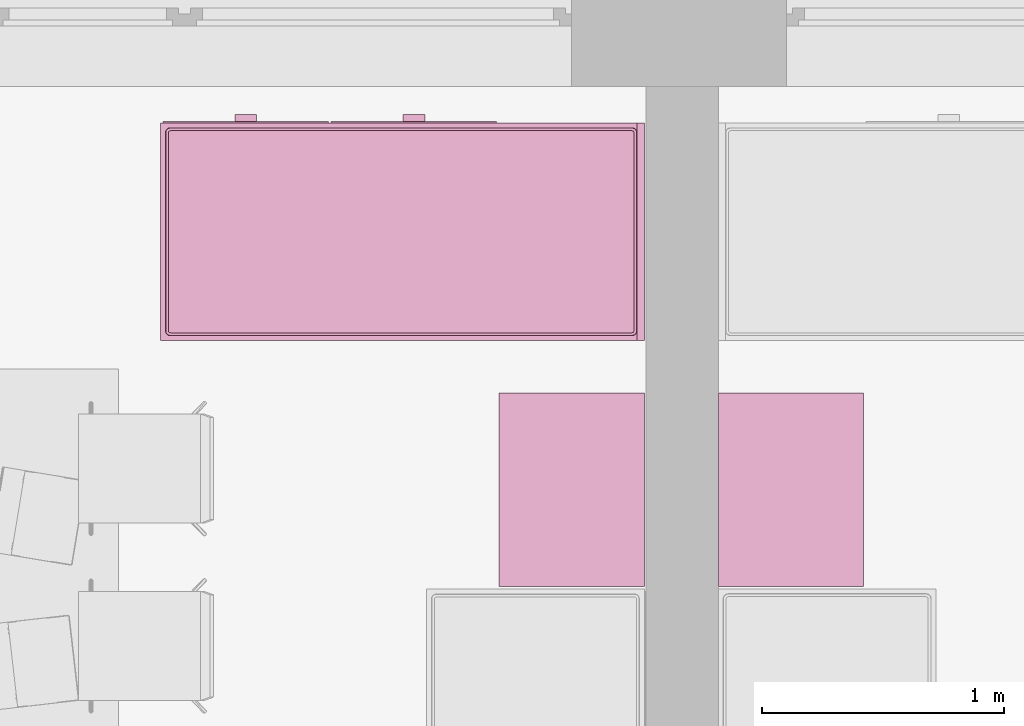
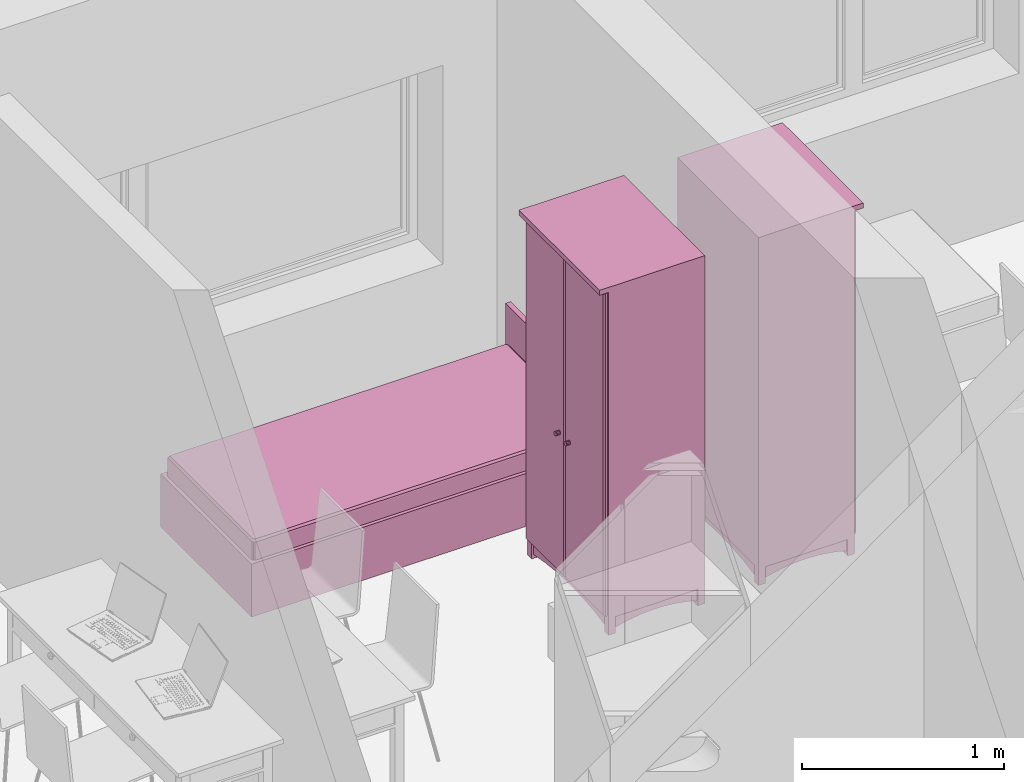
# One storey, part 91 of 165: 3 furnishings.
"""IFC2X3 building model written with IfcOpenShell, lengths in millimetres."""

from ifc_helpers import new_model, entity, si_unit, converted_unit, money_unit, direction, frame, origin_with_axes, place, context, subcontext, project, spatial, faceted_brep, source, transform, mapped, material, material_list, type_object, element, save


model = new_model("IFC2X3")

# Units and contexts
model_context = context("Model", 3, precision=1e-05, world=origin_with_axes(), true_north=direction((0.0, 1.0)))
body_context = subcontext(model_context, "Body", "Model", "MODEL_VIEW")
ifc_project = project(units=[si_unit("LENGTHUNIT", "METRE", prefix="MILLI"), si_unit("AREAUNIT", "SQUARE_METRE"), si_unit("VOLUMEUNIT", "CUBIC_METRE"), converted_unit("PLANEANGLEUNIT", "DEGREE", entity("IfcPlaneAngleMeasure", 0.0174532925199), si_unit("PLANEANGLEUNIT", "RADIAN"), dimensions=[0, 0, 0, 0, 0, 0, 0]), si_unit("SOLIDANGLEUNIT", "STERADIAN"), money_unit("USD"), converted_unit("TIMEUNIT", "Year", entity("IfcTimeMeasure", 31556926.0), si_unit("TIMEUNIT", "SECOND"), dimensions=[0, 0, 0, 0, 0, 0, 0]), si_unit("MASSUNIT", "GRAM"), si_unit("THERMODYNAMICTEMPERATUREUNIT", "DEGREE_CELSIUS"), si_unit("LUMINOUSINTENSITYUNIT", "LUMEN")], contexts=[model_context])

# Site, building, storey
site_placement = place(None, origin_with_axes())
site = spatial("IfcSite", under=ifc_project, at=site_placement, Name="Site", CompositionType="ELEMENT")
building_placement = place(site_placement, origin_with_axes())
building = spatial("IfcBuilding", under=site, at=building_placement, Name="Building", CompositionType="ELEMENT")
storey_placement = place(building_placement, frame((0.0, 0.0, 6300.0), z_axis=(0.0, 0.0, 1.0), x_axis=(1.0, 0.0, 0.0)))
storey = spatial("IfcBuildingStorey", under=building, at=storey_placement, Name="4KORRUS", CompositionType="ELEMENT", Elevation=6300.0)

# Furnishings
ifc_material = material(Name="Background")
ifc_material_list = material_list([ifc_material])
furnishing_element_type_1 = type_object("IfcFurnishingElementType", Name="Cupboard 19")
shared_shape_1 = source(origin_with_axes(), body_context, "Body", "Brep", [
    faceted_brep([(780.0, 600.0, 120.0), (780.0, 600.0, 2050.0), (780.0, 580.0, 2050.0), (780.0, 580.0, 120.0), (20.0, 600.0, 120.0), (20.0, 600.0, 2050.0), (20.0, 580.0, 2050.0), (20.0, 580.0, 120.0)], [[[0, 1, 2, 3]], [[4, 5, 1, 0]], [[1, 5, 6, 2]], [[3, 2, 6, 7]], [[0, 3, 7, 4]], [[7, 6, 5, 4]]]),
    faceted_brep([(0.0, 50.0, 100.0), (0.0, 600.0, 100.0), (20.0, 600.0, 100.0), (20.0, 50.0, 100.0), (0.0, 50.0, 2070.0), (0.0, 600.0, 2070.0), (20.0, 600.0, 2070.0), (20.0, 50.0, 2070.0)], [[[0, 1, 2, 3]], [[0, 4, 5, 1]], [[1, 5, 6, 2]], [[2, 6, 7, 3]], [[3, 7, 4, 0]], [[7, 6, 5, 4]]]),
    faceted_brep([(780.0, 50.0, 100.0), (780.0, 600.0, 100.0), (800.0, 600.0, 100.0), (800.0, 50.0, 100.0), (780.0, 50.0, 2070.0), (780.0, 600.0, 2070.0), (800.0, 600.0, 2070.0), (800.0, 50.0, 2070.0)], [[[0, 1, 2, 3]], [[0, 4, 5, 1]], [[1, 5, 6, 2]], [[2, 6, 7, 3]], [[3, 7, 4, 0]], [[7, 6, 5, 4]]]),
    faceted_brep([(20.0, 50.0, 100.0), (20.0, 600.0, 100.0), (780.0, 600.0, 100.0), (780.0, 50.0, 100.0), (20.0, 50.0, 120.0), (20.0, 600.0, 120.0), (780.0, 600.0, 120.0), (780.0, 50.0, 120.0)], [[[0, 1, 2, 3]], [[0, 4, 5, 1]], [[1, 5, 6, 2]], [[2, 6, 7, 3]], [[3, 7, 4, 0]], [[7, 6, 5, 4]]]),
    faceted_brep([(20.0, 50.0, 2050.0), (20.0, 600.0, 2050.0), (780.0, 600.0, 2050.0), (780.0, 50.0, 2050.0), (20.0, 50.0, 2070.0), (20.0, 600.0, 2070.0), (780.0, 600.0, 2070.0), (780.0, 50.0, 2070.0)], [[[0, 1, 2, 3]], [[0, 4, 5, 1]], [[1, 5, 6, 2]], [[2, 6, 7, 3]], [[3, 7, 4, 0]], [[7, 6, 5, 4]]]),
    faceted_brep([(0.0, 600.0, 2070.0), (0.0, 0.0, 2070.0), (0.0, 0.0, 2100.0), (0.0, 600.0, 2100.0), (800.0, 600.0, 2070.0), (800.0, 0.0, 2070.0), (800.0, 0.0, 2100.0), (800.0, 600.0, 2100.0)], [[[0, 1, 2, 3]], [[0, 4, 5, 1]], [[1, 5, 6, 2]], [[3, 2, 6, 7]], [[4, 0, 3, 7]], [[5, 4, 7, 6]]]),
    faceted_brep([(760.0, 590.0, 25.0), (760.0, 570.0, 25.0), (640.962, 570.0, 45.8), (640.962, 590.0, 45.8), (760.0, 590.0, 100.0), (760.0, 570.0, 100.0), (40.0, 570.0, 100.0), (40.0, 570.0, 25.0), (159.038, 570.0, 45.8), (279.23, 570.0, 58.32), (400.0, 570.0, 62.5), (520.77, 570.0, 58.32), (520.77, 590.0, 58.32), (400.0, 590.0, 62.5), (279.23, 590.0, 58.32), (159.038, 590.0, 45.8), (40.0, 590.0, 25.0), (40.0, 590.0, 100.0)], [[[0, 1, 2, 3]], [[4, 5, 1, 0]], [[1, 5, 6, 7, 8, 9, 10, 11, 2]], [[3, 2, 11, 12]], [[0, 3, 12, 13, 14, 15, 16, 17, 4]], [[17, 6, 5, 4]], [[16, 7, 6, 17]], [[15, 8, 7, 16]], [[14, 9, 8, 15]], [[13, 10, 9, 14]], [[12, 11, 10, 13]]]),
    faceted_brep([(760.0, 80.0, 25.0), (760.0, 60.0, 25.0), (640.962, 60.0, 45.8), (640.962, 80.0, 45.8), (760.0, 80.0, 100.0), (760.0, 60.0, 100.0), (40.0, 60.0, 100.0), (40.0, 60.0, 25.0), (159.038, 60.0, 45.8), (279.23, 60.0, 58.32), (400.0, 60.0, 62.5), (520.77, 60.0, 58.32), (520.77, 80.0, 58.32), (400.0, 80.0, 62.5), (279.23, 80.0, 58.32), (159.038, 80.0, 45.8), (40.0, 80.0, 25.0), (40.0, 80.0, 100.0)], [[[0, 1, 2, 3]], [[4, 5, 1, 0]], [[1, 5, 6, 7, 8, 9, 10, 11, 2]], [[3, 2, 11, 12]], [[0, 3, 12, 13, 14, 15, 16, 17, 4]], [[17, 6, 5, 4]], [[16, 7, 6, 17]], [[15, 8, 7, 16]], [[14, 9, 8, 15]], [[13, 10, 9, 14]], [[12, 11, 10, 13]]]),
    faceted_brep([(790.0, 90.0, 25.0), (770.0, 90.0, 25.0), (770.0, 141.266, 38.072), (790.0, 141.266, 38.072), (790.0, 90.0, 100.0), (770.0, 90.0, 100.0), (770.0, 560.0, 100.0), (770.0, 560.0, 25.0), (770.0, 508.734, 38.072), (770.0, 456.752, 47.92), (770.0, 404.257, 54.508), (770.0, 351.453, 57.808), (770.0, 298.547, 57.808), (770.0, 245.743, 54.508), (770.0, 193.248, 47.92), (790.0, 193.248, 47.92), (790.0, 245.743, 54.508), (790.0, 298.547, 57.808), (790.0, 351.453, 57.808), (790.0, 404.257, 54.508), (790.0, 456.752, 47.92), (790.0, 508.734, 38.072), (790.0, 560.0, 25.0), (790.0, 560.0, 100.0)], [[[0, 1, 2, 3]], [[4, 5, 1, 0]], [[1, 5, 6, 7, 8, 9, 10, 11, 12, 13, 14, 2]], [[3, 2, 14, 15]], [[0, 3, 15, 16, 17, 18, 19, 20, 21, 22, 23, 4]], [[23, 6, 5, 4]], [[22, 7, 6, 23]], [[21, 8, 7, 22]], [[20, 9, 8, 21]], [[19, 10, 9, 20]], [[18, 11, 10, 19]], [[17, 12, 11, 18]], [[16, 13, 12, 17]], [[15, 14, 13, 16]]]),
    faceted_brep([(30.0, 90.0, 25.0), (10.0, 90.0, 25.0), (10.0, 141.266, 38.072), (30.0, 141.266, 38.072), (30.0, 90.0, 100.0), (10.0, 90.0, 100.0), (10.0, 560.0, 100.0), (10.0, 560.0, 25.0), (10.0, 508.734, 38.072), (10.0, 456.752, 47.92), (10.0, 404.257, 54.508), (10.0, 351.453, 57.808), (10.0, 298.547, 57.808), (10.0, 245.743, 54.508), (10.0, 193.248, 47.92), (30.0, 193.248, 47.92), (30.0, 245.743, 54.508), (30.0, 298.547, 57.808), (30.0, 351.453, 57.808), (30.0, 404.257, 54.508), (30.0, 456.752, 47.92), (30.0, 508.734, 38.072), (30.0, 560.0, 25.0), (30.0, 560.0, 100.0)], [[[0, 1, 2, 3]], [[4, 5, 1, 0]], [[1, 5, 6, 7, 8, 9, 10, 11, 12, 13, 14, 2]], [[3, 2, 14, 15]], [[0, 3, 15, 16, 17, 18, 19, 20, 21, 22, 23, 4]], [[23, 6, 5, 4]], [[22, 7, 6, 23]], [[21, 8, 7, 22]], [[20, 9, 8, 21]], [[19, 10, 9, 20]], [[18, 11, 10, 19]], [[17, 12, 11, 18]], [[16, 13, 12, 17]], [[15, 14, 13, 16]]]),
    faceted_brep([(760.0, 560.0, 0.0), (760.0, 560.0, 100.0), (760.0, 600.0, 100.0), (760.0, 600.0, 0.0), (800.0, 560.0, 0.0), (800.0, 560.0, 100.0), (800.0, 600.0, 100.0), (800.0, 600.0, 0.0)], [[[0, 1, 2, 3]], [[4, 5, 1, 0]], [[1, 5, 6, 2]], [[3, 2, 6, 7]], [[0, 3, 7, 4]], [[7, 6, 5, 4]]]),
    faceted_brep([(0.0, 560.0, 0.0), (0.0, 560.0, 100.0), (0.0, 600.0, 100.0), (0.0, 600.0, 0.0), (40.0, 560.0, 0.0), (40.0, 560.0, 100.0), (40.0, 600.0, 100.0), (40.0, 600.0, 0.0)], [[[0, 1, 2, 3]], [[4, 5, 1, 0]], [[1, 5, 6, 2]], [[3, 2, 6, 7]], [[0, 3, 7, 4]], [[7, 6, 5, 4]]]),
    faceted_brep([(760.0, 50.0, 0.0), (760.0, 50.0, 100.0), (760.0, 90.0, 100.0), (760.0, 90.0, 0.0), (800.0, 50.0, 0.0), (800.0, 50.0, 100.0), (800.0, 90.0, 100.0), (800.0, 90.0, 0.0)], [[[0, 1, 2, 3]], [[4, 5, 1, 0]], [[1, 5, 6, 2]], [[3, 2, 6, 7]], [[0, 3, 7, 4]], [[7, 6, 5, 4]]]),
    faceted_brep([(0.0, 50.0, 0.0), (0.0, 50.0, 100.0), (0.0, 90.0, 100.0), (0.0, 90.0, 0.0), (40.0, 50.0, 0.0), (40.0, 50.0, 100.0), (40.0, 90.0, 100.0), (40.0, 90.0, 0.0)], [[[0, 1, 2, 3]], [[4, 5, 1, 0]], [[1, 5, 6, 2]], [[3, 2, 6, 7]], [[0, 3, 7, 4]], [[7, 6, 5, 4]]]),
    faceted_brep([(780.0, 580.0, 587.5), (780.0, 580.0, 607.5), (780.0, 50.0, 607.5), (780.0, 50.0, 587.5), (20.0, 580.0, 587.5), (20.0, 580.0, 607.5), (20.0, 50.0, 607.5), (20.0, 50.0, 587.5)], [[[0, 1, 2, 3]], [[4, 5, 1, 0]], [[1, 5, 6, 2]], [[3, 2, 6, 7]], [[0, 3, 7, 4]], [[7, 6, 5, 4]]]),
    faceted_brep([(780.0, 580.0, 1075.0), (780.0, 580.0, 1095.0), (780.0, 50.0, 1095.0), (780.0, 50.0, 1075.0), (20.0, 580.0, 1075.0), (20.0, 580.0, 1095.0), (20.0, 50.0, 1095.0), (20.0, 50.0, 1075.0)], [[[0, 1, 2, 3]], [[4, 5, 1, 0]], [[1, 5, 6, 2]], [[3, 2, 6, 7]], [[0, 3, 7, 4]], [[7, 6, 5, 4]]]),
    faceted_brep([(780.0, 580.0, 1562.5), (780.0, 580.0, 1582.5), (780.0, 50.0, 1582.5), (780.0, 50.0, 1562.5), (20.0, 580.0, 1562.5), (20.0, 580.0, 1582.5), (20.0, 50.0, 1582.5), (20.0, 50.0, 1562.5)], [[[0, 1, 2, 3]], [[4, 5, 1, 0]], [[1, 5, 6, 2]], [[3, 2, 6, 7]], [[0, 3, 7, 4]], [[7, 6, 5, 4]]]),
    faceted_brep([(789.5, 50.0, 110.5), (400.5, 50.0, 110.5), (400.5, 50.0, 2059.5), (789.5, 50.0, 2059.5), (789.5, 40.0, 110.5), (400.5, 40.0, 110.5), (400.5, 40.0, 2059.5), (789.5, 40.0, 2059.5), (779.5, 30.0, 120.5), (410.5, 30.0, 120.5), (410.5, 30.0, 2049.5), (779.5, 30.0, 2049.5)], [[[0, 1, 2, 3]], [[0, 4, 5, 1]], [[1, 5, 6, 2]], [[2, 6, 7, 3]], [[3, 7, 4, 0]], [[4, 8, 9, 5]], [[5, 9, 10, 6]], [[6, 10, 11, 7]], [[7, 11, 8, 4]], [[10, 9, 8, 11]]]),
    faceted_brep([(399.5, 50.0, 110.5), (10.5, 50.0, 110.5), (10.5, 50.0, 2059.5), (399.5, 50.0, 2059.5), (399.5, 40.0, 110.5), (10.5, 40.0, 110.5), (10.5, 40.0, 2059.5), (399.5, 40.0, 2059.5), (389.5, 30.0, 120.5), (20.5, 30.0, 120.5), (20.5, 30.0, 2049.5), (389.5, 30.0, 2049.5)], [[[0, 1, 2, 3]], [[0, 4, 5, 1]], [[1, 5, 6, 2]], [[2, 6, 7, 3]], [[3, 7, 4, 0]], [[4, 8, 9, 5]], [[5, 9, 10, 6]], [[6, 10, 11, 7]], [[7, 11, 8, 4]], [[10, 9, 8, 11]]]),
    faceted_brep([(339.608, 30.0, 954.0), (338.0, 30.0, 960.0), (339.608, 30.0, 966.0), (344.0, 30.0, 970.392), (350.0, 30.0, 972.0), (356.0, 30.0, 970.392), (360.392, 30.0, 966.0), (362.0, 30.0, 960.0), (360.392, 30.0, 954.0), (356.0, 30.0, 949.608), (350.0, 30.0, 948.0), (344.0, 30.0, 949.608), (339.608, 5.0, 954.0), (338.0, 5.0, 960.0), (339.608, 5.0, 966.0), (344.0, 5.0, 970.392), (350.0, 5.0, 972.0), (356.0, 5.0, 970.392), (360.392, 5.0, 966.0), (362.0, 5.0, 960.0), (360.392, 5.0, 954.0), (356.0, 5.0, 949.608), (350.0, 5.0, 948.0), (344.0, 5.0, 949.608)], [[[0, 1, 2, 3, 4, 5, 6, 7, 8, 9, 10, 11]], [[0, 12, 13, 1]], [[1, 13, 14, 2]], [[2, 14, 15, 3]], [[3, 15, 16, 4]], [[4, 16, 17, 5]], [[5, 17, 18, 6]], [[6, 18, 19, 7]], [[7, 19, 20, 8]], [[8, 20, 21, 9]], [[9, 21, 22, 10]], [[10, 22, 23, 11]], [[11, 23, 12, 0]], [[12, 23, 22, 21, 20, 19, 18, 17, 16, 15, 14, 13]]]),
    faceted_brep([(460.392, 30.0, 954.0), (456.0, 30.0, 949.608), (450.0, 30.0, 948.0), (444.0, 30.0, 949.608), (439.608, 30.0, 954.0), (438.0, 30.0, 960.0), (439.608, 30.0, 966.0), (444.0, 30.0, 970.392), (450.0, 30.0, 972.0), (456.0, 30.0, 970.392), (460.392, 30.0, 966.0), (462.0, 30.0, 960.0), (460.392, 5.0, 954.0), (456.0, 5.0, 949.608), (450.0, 5.0, 948.0), (444.0, 5.0, 949.608), (439.608, 5.0, 954.0), (438.0, 5.0, 960.0), (439.608, 5.0, 966.0), (444.0, 5.0, 970.392), (450.0, 5.0, 972.0), (456.0, 5.0, 970.392), (460.392, 5.0, 966.0), (462.0, 5.0, 960.0)], [[[0, 1, 2, 3, 4, 5, 6, 7, 8, 9, 10, 11]], [[1, 0, 12, 13]], [[2, 1, 13, 14]], [[3, 2, 14, 15]], [[4, 3, 15, 16]], [[5, 4, 16, 17]], [[6, 5, 17, 18]], [[7, 6, 18, 19]], [[8, 7, 19, 20]], [[9, 8, 20, 21]], [[10, 9, 21, 22]], [[11, 10, 22, 23]], [[0, 11, 23, 12]], [[12, 23, 22, 21, 20, 19, 18, 17, 16, 15, 14, 13]]]),
])
furnishing_1_placement = place(storey_placement, frame((-35390.2967033, -7206.41563755, 0.0), z_axis=(0.0, 0.0, 1.0), x_axis=(0.0, 1.0, 0.0)))
element("IfcFurnishingElement", 1, at=furnishing_1_placement, inside=storey, type_object=furnishing_element_type_1, material=ifc_material_list, Name="FU - 014", context=body_context, shape_type="MappedRepresentation", body=[
    mapped(shared_shape_1, transform((0.0, 0.0, 0.0))),
])
shared_shape_2 = source(origin_with_axes(), body_context, "Body", "Brep", [
    faceted_brep([(-780.0, 600.0, 120.0), (-780.0, 580.0, 120.0), (-780.0, 580.0, 2050.0), (-780.0, 600.0, 2050.0), (-20.0, 600.0, 120.0), (-20.0, 580.0, 120.0), (-20.0, 580.0, 2050.0), (-20.0, 600.0, 2050.0)], [[[0, 1, 2, 3]], [[0, 4, 5, 1]], [[1, 5, 6, 2]], [[3, 2, 6, 7]], [[4, 0, 3, 7]], [[5, 4, 7, 6]]]),
    faceted_brep([(0.0, 50.0, 100.0), (-20.0, 50.0, 100.0), (-20.0, 600.0, 100.0), (0.0, 600.0, 100.0), (0.0, 50.0, 2070.0), (-20.0, 50.0, 2070.0), (-20.0, 600.0, 2070.0), (0.0, 600.0, 2070.0)], [[[0, 1, 2, 3]], [[1, 0, 4, 5]], [[2, 1, 5, 6]], [[3, 2, 6, 7]], [[0, 3, 7, 4]], [[5, 4, 7, 6]]]),
    faceted_brep([(-780.0, 50.0, 100.0), (-800.0, 50.0, 100.0), (-800.0, 600.0, 100.0), (-780.0, 600.0, 100.0), (-780.0, 50.0, 2070.0), (-800.0, 50.0, 2070.0), (-800.0, 600.0, 2070.0), (-780.0, 600.0, 2070.0)], [[[0, 1, 2, 3]], [[1, 0, 4, 5]], [[2, 1, 5, 6]], [[3, 2, 6, 7]], [[0, 3, 7, 4]], [[5, 4, 7, 6]]]),
    faceted_brep([(-20.0, 50.0, 100.0), (-780.0, 50.0, 100.0), (-780.0, 600.0, 100.0), (-20.0, 600.0, 100.0), (-20.0, 50.0, 120.0), (-780.0, 50.0, 120.0), (-780.0, 600.0, 120.0), (-20.0, 600.0, 120.0)], [[[0, 1, 2, 3]], [[1, 0, 4, 5]], [[2, 1, 5, 6]], [[3, 2, 6, 7]], [[0, 3, 7, 4]], [[5, 4, 7, 6]]]),
    faceted_brep([(-20.0, 50.0, 2050.0), (-780.0, 50.0, 2050.0), (-780.0, 600.0, 2050.0), (-20.0, 600.0, 2050.0), (-20.0, 50.0, 2070.0), (-780.0, 50.0, 2070.0), (-780.0, 600.0, 2070.0), (-20.0, 600.0, 2070.0)], [[[0, 1, 2, 3]], [[1, 0, 4, 5]], [[2, 1, 5, 6]], [[3, 2, 6, 7]], [[0, 3, 7, 4]], [[5, 4, 7, 6]]]),
    faceted_brep([(0.0, 600.0, 2070.0), (0.0, 600.0, 2100.0), (0.0, 0.0, 2100.0), (0.0, 0.0, 2070.0), (-800.0, 600.0, 2070.0), (-800.0, 600.0, 2100.0), (-800.0, 0.0, 2100.0), (-800.0, 0.0, 2070.0)], [[[0, 1, 2, 3]], [[4, 5, 1, 0]], [[1, 5, 6, 2]], [[3, 2, 6, 7]], [[0, 3, 7, 4]], [[7, 6, 5, 4]]]),
    faceted_brep([(-760.0, 590.0, 25.0), (-640.962, 590.0, 45.8), (-640.962, 570.0, 45.8), (-760.0, 570.0, 25.0), (-760.0, 590.0, 100.0), (-40.0, 590.0, 100.0), (-40.0, 590.0, 25.0), (-159.038, 590.0, 45.8), (-279.23, 590.0, 58.32), (-400.0, 590.0, 62.5), (-520.77, 590.0, 58.32), (-520.77, 570.0, 58.32), (-400.0, 570.0, 62.5), (-279.23, 570.0, 58.32), (-159.038, 570.0, 45.8), (-40.0, 570.0, 25.0), (-40.0, 570.0, 100.0), (-760.0, 570.0, 100.0)], [[[0, 1, 2, 3]], [[0, 4, 5, 6, 7, 8, 9, 10, 1]], [[1, 10, 11, 2]], [[3, 2, 11, 12, 13, 14, 15, 16, 17]], [[4, 0, 3, 17]], [[5, 4, 17, 16]], [[6, 5, 16, 15]], [[7, 6, 15, 14]], [[8, 7, 14, 13]], [[9, 8, 13, 12]], [[10, 9, 12, 11]]]),
    faceted_brep([(-760.0, 80.0, 25.0), (-640.962, 80.0, 45.8), (-640.962, 60.0, 45.8), (-760.0, 60.0, 25.0), (-760.0, 80.0, 100.0), (-40.0, 80.0, 100.0), (-40.0, 80.0, 25.0), (-159.038, 80.0, 45.8), (-279.23, 80.0, 58.32), (-400.0, 80.0, 62.5), (-520.77, 80.0, 58.32), (-520.77, 60.0, 58.32), (-400.0, 60.0, 62.5), (-279.23, 60.0, 58.32), (-159.038, 60.0, 45.8), (-40.0, 60.0, 25.0), (-40.0, 60.0, 100.0), (-760.0, 60.0, 100.0)], [[[0, 1, 2, 3]], [[0, 4, 5, 6, 7, 8, 9, 10, 1]], [[1, 10, 11, 2]], [[3, 2, 11, 12, 13, 14, 15, 16, 17]], [[4, 0, 3, 17]], [[5, 4, 17, 16]], [[6, 5, 16, 15]], [[7, 6, 15, 14]], [[8, 7, 14, 13]], [[9, 8, 13, 12]], [[10, 9, 12, 11]]]),
    faceted_brep([(-790.0, 90.0, 25.0), (-790.0, 141.266, 38.072), (-770.0, 141.266, 38.072), (-770.0, 90.0, 25.0), (-790.0, 90.0, 100.0), (-790.0, 560.0, 100.0), (-790.0, 560.0, 25.0), (-790.0, 508.734, 38.072), (-790.0, 456.752, 47.92), (-790.0, 404.257, 54.508), (-790.0, 351.453, 57.808), (-790.0, 298.547, 57.808), (-790.0, 245.743, 54.508), (-790.0, 193.248, 47.92), (-770.0, 193.248, 47.92), (-770.0, 245.743, 54.508), (-770.0, 298.547, 57.808), (-770.0, 351.453, 57.808), (-770.0, 404.257, 54.508), (-770.0, 456.752, 47.92), (-770.0, 508.734, 38.072), (-770.0, 560.0, 25.0), (-770.0, 560.0, 100.0), (-770.0, 90.0, 100.0)], [[[0, 1, 2, 3]], [[0, 4, 5, 6, 7, 8, 9, 10, 11, 12, 13, 1]], [[1, 13, 14, 2]], [[3, 2, 14, 15, 16, 17, 18, 19, 20, 21, 22, 23]], [[4, 0, 3, 23]], [[5, 4, 23, 22]], [[6, 5, 22, 21]], [[7, 6, 21, 20]], [[8, 7, 20, 19]], [[9, 8, 19, 18]], [[10, 9, 18, 17]], [[11, 10, 17, 16]], [[12, 11, 16, 15]], [[13, 12, 15, 14]]]),
    faceted_brep([(-30.0, 90.0, 25.0), (-30.0, 141.266, 38.072), (-10.0, 141.266, 38.072), (-10.0, 90.0, 25.0), (-30.0, 90.0, 100.0), (-30.0, 560.0, 100.0), (-30.0, 560.0, 25.0), (-30.0, 508.734, 38.072), (-30.0, 456.752, 47.92), (-30.0, 404.257, 54.508), (-30.0, 351.453, 57.808), (-30.0, 298.547, 57.808), (-30.0, 245.743, 54.508), (-30.0, 193.248, 47.92), (-10.0, 193.248, 47.92), (-10.0, 245.743, 54.508), (-10.0, 298.547, 57.808), (-10.0, 351.453, 57.808), (-10.0, 404.257, 54.508), (-10.0, 456.752, 47.92), (-10.0, 508.734, 38.072), (-10.0, 560.0, 25.0), (-10.0, 560.0, 100.0), (-10.0, 90.0, 100.0)], [[[0, 1, 2, 3]], [[0, 4, 5, 6, 7, 8, 9, 10, 11, 12, 13, 1]], [[1, 13, 14, 2]], [[3, 2, 14, 15, 16, 17, 18, 19, 20, 21, 22, 23]], [[4, 0, 3, 23]], [[5, 4, 23, 22]], [[6, 5, 22, 21]], [[7, 6, 21, 20]], [[8, 7, 20, 19]], [[9, 8, 19, 18]], [[10, 9, 18, 17]], [[11, 10, 17, 16]], [[12, 11, 16, 15]], [[13, 12, 15, 14]]]),
    faceted_brep([(-760.0, 560.0, 0.0), (-760.0, 600.0, 0.0), (-760.0, 600.0, 100.0), (-760.0, 560.0, 100.0), (-800.0, 560.0, 0.0), (-800.0, 600.0, 0.0), (-800.0, 600.0, 100.0), (-800.0, 560.0, 100.0)], [[[0, 1, 2, 3]], [[0, 4, 5, 1]], [[1, 5, 6, 2]], [[3, 2, 6, 7]], [[4, 0, 3, 7]], [[5, 4, 7, 6]]]),
    faceted_brep([(0.0, 560.0, 0.0), (0.0, 600.0, 0.0), (0.0, 600.0, 100.0), (0.0, 560.0, 100.0), (-40.0, 560.0, 0.0), (-40.0, 600.0, 0.0), (-40.0, 600.0, 100.0), (-40.0, 560.0, 100.0)], [[[0, 1, 2, 3]], [[0, 4, 5, 1]], [[1, 5, 6, 2]], [[3, 2, 6, 7]], [[4, 0, 3, 7]], [[5, 4, 7, 6]]]),
    faceted_brep([(-760.0, 50.0, 0.0), (-760.0, 90.0, 0.0), (-760.0, 90.0, 100.0), (-760.0, 50.0, 100.0), (-800.0, 50.0, 0.0), (-800.0, 90.0, 0.0), (-800.0, 90.0, 100.0), (-800.0, 50.0, 100.0)], [[[0, 1, 2, 3]], [[0, 4, 5, 1]], [[1, 5, 6, 2]], [[3, 2, 6, 7]], [[4, 0, 3, 7]], [[5, 4, 7, 6]]]),
    faceted_brep([(0.0, 50.0, 0.0), (0.0, 90.0, 0.0), (0.0, 90.0, 100.0), (0.0, 50.0, 100.0), (-40.0, 50.0, 0.0), (-40.0, 90.0, 0.0), (-40.0, 90.0, 100.0), (-40.0, 50.0, 100.0)], [[[0, 1, 2, 3]], [[0, 4, 5, 1]], [[1, 5, 6, 2]], [[3, 2, 6, 7]], [[4, 0, 3, 7]], [[5, 4, 7, 6]]]),
    faceted_brep([(-780.0, 580.0, 587.5), (-780.0, 50.0, 587.5), (-780.0, 50.0, 607.5), (-780.0, 580.0, 607.5), (-20.0, 580.0, 587.5), (-20.0, 50.0, 587.5), (-20.0, 50.0, 607.5), (-20.0, 580.0, 607.5)], [[[0, 1, 2, 3]], [[0, 4, 5, 1]], [[1, 5, 6, 2]], [[3, 2, 6, 7]], [[4, 0, 3, 7]], [[5, 4, 7, 6]]]),
    faceted_brep([(-780.0, 580.0, 1075.0), (-780.0, 50.0, 1075.0), (-780.0, 50.0, 1095.0), (-780.0, 580.0, 1095.0), (-20.0, 580.0, 1075.0), (-20.0, 50.0, 1075.0), (-20.0, 50.0, 1095.0), (-20.0, 580.0, 1095.0)], [[[0, 1, 2, 3]], [[0, 4, 5, 1]], [[1, 5, 6, 2]], [[3, 2, 6, 7]], [[4, 0, 3, 7]], [[5, 4, 7, 6]]]),
    faceted_brep([(-780.0, 580.0, 1562.5), (-780.0, 50.0, 1562.5), (-780.0, 50.0, 1582.5), (-780.0, 580.0, 1582.5), (-20.0, 580.0, 1562.5), (-20.0, 50.0, 1562.5), (-20.0, 50.0, 1582.5), (-20.0, 580.0, 1582.5)], [[[0, 1, 2, 3]], [[0, 4, 5, 1]], [[1, 5, 6, 2]], [[3, 2, 6, 7]], [[4, 0, 3, 7]], [[5, 4, 7, 6]]]),
    faceted_brep([(-789.5, 50.0, 110.5), (-789.5, 50.0, 2059.5), (-400.5, 50.0, 2059.5), (-400.5, 50.0, 110.5), (-789.5, 40.0, 110.5), (-789.5, 40.0, 2059.5), (-400.5, 40.0, 2059.5), (-400.5, 40.0, 110.5), (-779.5, 30.0, 120.5), (-779.5, 30.0, 2049.5), (-410.5, 30.0, 2049.5), (-410.5, 30.0, 120.5)], [[[0, 1, 2, 3]], [[1, 0, 4, 5]], [[2, 1, 5, 6]], [[3, 2, 6, 7]], [[0, 3, 7, 4]], [[5, 4, 8, 9]], [[6, 5, 9, 10]], [[7, 6, 10, 11]], [[4, 7, 11, 8]], [[10, 9, 8, 11]]]),
    faceted_brep([(-399.5, 50.0, 110.5), (-399.5, 50.0, 2059.5), (-10.5, 50.0, 2059.5), (-10.5, 50.0, 110.5), (-399.5, 40.0, 110.5), (-399.5, 40.0, 2059.5), (-10.5, 40.0, 2059.5), (-10.5, 40.0, 110.5), (-389.5, 30.0, 120.5), (-389.5, 30.0, 2049.5), (-20.5, 30.0, 2049.5), (-20.5, 30.0, 120.5)], [[[0, 1, 2, 3]], [[1, 0, 4, 5]], [[2, 1, 5, 6]], [[3, 2, 6, 7]], [[0, 3, 7, 4]], [[5, 4, 8, 9]], [[6, 5, 9, 10]], [[7, 6, 10, 11]], [[4, 7, 11, 8]], [[10, 9, 8, 11]]]),
    faceted_brep([(-339.608, 30.0, 954.0), (-344.0, 30.0, 949.608), (-350.0, 30.0, 948.0), (-356.0, 30.0, 949.608), (-360.392, 30.0, 954.0), (-362.0, 30.0, 960.0), (-360.392, 30.0, 966.0), (-356.0, 30.0, 970.392), (-350.0, 30.0, 972.0), (-344.0, 30.0, 970.392), (-339.608, 30.0, 966.0), (-338.0, 30.0, 960.0), (-339.608, 5.0, 954.0), (-344.0, 5.0, 949.608), (-350.0, 5.0, 948.0), (-356.0, 5.0, 949.608), (-360.392, 5.0, 954.0), (-362.0, 5.0, 960.0), (-360.392, 5.0, 966.0), (-356.0, 5.0, 970.392), (-350.0, 5.0, 972.0), (-344.0, 5.0, 970.392), (-339.608, 5.0, 966.0), (-338.0, 5.0, 960.0)], [[[0, 1, 2, 3, 4, 5, 6, 7, 8, 9, 10, 11]], [[1, 0, 12, 13]], [[2, 1, 13, 14]], [[3, 2, 14, 15]], [[4, 3, 15, 16]], [[5, 4, 16, 17]], [[6, 5, 17, 18]], [[7, 6, 18, 19]], [[8, 7, 19, 20]], [[9, 8, 20, 21]], [[10, 9, 21, 22]], [[11, 10, 22, 23]], [[0, 11, 23, 12]], [[12, 23, 22, 21, 20, 19, 18, 17, 16, 15, 14, 13]]]),
    faceted_brep([(-460.392, 30.0, 954.0), (-462.0, 30.0, 960.0), (-460.392, 30.0, 966.0), (-456.0, 30.0, 970.392), (-450.0, 30.0, 972.0), (-444.0, 30.0, 970.392), (-439.608, 30.0, 966.0), (-438.0, 30.0, 960.0), (-439.608, 30.0, 954.0), (-444.0, 30.0, 949.608), (-450.0, 30.0, 948.0), (-456.0, 30.0, 949.608), (-460.392, 5.0, 954.0), (-462.0, 5.0, 960.0), (-460.392, 5.0, 966.0), (-456.0, 5.0, 970.392), (-450.0, 5.0, 972.0), (-444.0, 5.0, 970.392), (-439.608, 5.0, 966.0), (-438.0, 5.0, 960.0), (-439.608, 5.0, 954.0), (-444.0, 5.0, 949.608), (-450.0, 5.0, 948.0), (-456.0, 5.0, 949.608)], [[[0, 1, 2, 3, 4, 5, 6, 7, 8, 9, 10, 11]], [[0, 12, 13, 1]], [[1, 13, 14, 2]], [[2, 14, 15, 3]], [[3, 15, 16, 4]], [[4, 16, 17, 5]], [[5, 17, 18, 6]], [[6, 18, 19, 7]], [[7, 19, 20, 8]], [[8, 20, 21, 9]], [[9, 21, 22, 10]], [[10, 22, 23, 11]], [[11, 23, 12, 0]], [[12, 23, 22, 21, 20, 19, 18, 17, 16, 15, 14, 13]]]),
])
furnishing_2_placement = place(storey_placement, frame((-36896.5850987, -7207.41563755, 0.0), z_axis=(0.0, 0.0, 1.0), x_axis=(0.0, -1.0, 0.0)))
element("IfcFurnishingElement", 2, at=furnishing_2_placement, inside=storey, type_object=furnishing_element_type_1, material=ifc_material_list, Name="FU - 014", context=body_context, shape_type="MappedRepresentation", body=[
    mapped(shared_shape_2, transform((0.0, 0.0, 0.0))),
])
furnishing_element_type_2 = type_object("IfcFurnishingElementType", Name="Bed 19")
shared_shape_3 = source(origin_with_axes(), body_context, "Body", "Brep", [
    faceted_brep([(-900.0, 1970.0, 0.0), (-900.0, 2000.0, 0.0), (0.0, 2000.0, 0.0), (0.0, 1970.0, 0.0), (-900.0, 1970.0, 660.0), (-900.0, 2000.0, 660.0), (0.0, 2000.0, 660.0), (0.0, 1970.0, 660.0)], [[[0, 1, 2, 3]], [[0, 4, 5, 1]], [[1, 5, 6, 2]], [[2, 6, 7, 3]], [[3, 7, 4, 0]], [[7, 6, 5, 4]]]),
    faceted_brep([(-900.0, 0.0, 0.0), (-900.0, 1970.0, 0.0), (0.0, 1970.0, 0.0), (0.0, 0.0, 0.0), (-900.0, 0.0, 320.0), (-900.0, 1970.0, 320.0), (0.0, 1970.0, 320.0), (0.0, 0.0, 320.0)], [[[0, 1, 2, 3]], [[0, 4, 5, 1]], [[1, 5, 6, 2]], [[2, 6, 7, 3]], [[3, 7, 4, 0]], [[7, 6, 5, 4]]]),
    faceted_brep([(-905.0, 10.0, 30.0), (-905.0, 695.0, 30.0), (-900.0, 695.0, 30.0), (-900.0, 10.0, 30.0), (-905.0, 10.0, 290.0), (-905.0, 695.0, 290.0), (-900.0, 695.0, 290.0), (-900.0, 10.0, 290.0)], [[[0, 1, 2, 3]], [[0, 4, 5, 1]], [[1, 5, 6, 2]], [[2, 6, 7, 3]], [[3, 7, 4, 0]], [[7, 6, 5, 4]]]),
    faceted_brep([(-935.0, 307.5, 150.0), (-935.0, 397.5, 150.0), (-905.0, 397.5, 150.0), (-905.0, 307.5, 150.0), (-935.0, 307.5, 170.0), (-935.0, 397.5, 170.0), (-905.0, 397.5, 170.0), (-905.0, 307.5, 170.0)], [[[0, 1, 2, 3]], [[0, 4, 5, 1]], [[1, 5, 6, 2]], [[2, 6, 7, 3]], [[3, 7, 4, 0]], [[7, 6, 5, 4]]]),
    faceted_brep([(-905.0, 705.0, 30.0), (-905.0, 1390.0, 30.0), (-900.0, 1390.0, 30.0), (-900.0, 705.0, 30.0), (-905.0, 705.0, 290.0), (-905.0, 1390.0, 290.0), (-900.0, 1390.0, 290.0), (-900.0, 705.0, 290.0)], [[[0, 1, 2, 3]], [[0, 4, 5, 1]], [[1, 5, 6, 2]], [[2, 6, 7, 3]], [[3, 7, 4, 0]], [[7, 6, 5, 4]]]),
    faceted_brep([(-935.0, 1002.5, 150.0), (-935.0, 1092.5, 150.0), (-905.0, 1092.5, 150.0), (-905.0, 1002.5, 150.0), (-935.0, 1002.5, 170.0), (-935.0, 1092.5, 170.0), (-905.0, 1092.5, 170.0), (-905.0, 1002.5, 170.0)], [[[0, 1, 2, 3]], [[0, 4, 5, 1]], [[1, 5, 6, 2]], [[2, 6, 7, 3]], [[3, 7, 4, 0]], [[7, 6, 5, 4]]]),
    faceted_brep([(-20.0, 40.0, 350.0), (-21.522, 32.346, 350.0), (-25.858, 25.858, 350.0), (-32.346, 21.522, 350.0), (-40.0, 20.0, 350.0), (-860.0, 20.0, 350.0), (-867.654, 21.522, 350.0), (-874.142, 25.858, 350.0), (-878.478, 32.346, 350.0), (-880.0, 40.0, 350.0), (-880.0, 1950.0, 350.0), (-878.478, 1957.654, 350.0), (-874.142, 1964.142, 350.0), (-867.654, 1968.478, 350.0), (-860.0, 1970.0, 350.0), (-40.0, 1970.0, 350.0), (-32.346, 1968.478, 350.0), (-25.858, 1964.142, 350.0), (-21.522, 1957.654, 350.0), (-20.0, 1950.0, 350.0), (-20.0, 40.0, 420.0), (-21.522, 32.346, 420.0), (-25.858, 25.858, 420.0), (-32.346, 21.522, 420.0), (-40.0, 20.0, 420.0), (-860.0, 20.0, 420.0), (-867.654, 21.522, 420.0), (-874.142, 25.858, 420.0), (-878.478, 32.346, 420.0), (-880.0, 40.0, 420.0), (-880.0, 1950.0, 420.0), (-878.478, 1957.654, 420.0), (-874.142, 1964.142, 420.0), (-867.654, 1968.478, 420.0), (-860.0, 1970.0, 420.0), (-40.0, 1970.0, 420.0), (-32.346, 1968.478, 420.0), (-25.858, 1964.142, 420.0), (-21.522, 1957.654, 420.0), (-20.0, 1950.0, 420.0), (-21.522, 40.15, 427.654), (-22.956, 32.94, 427.654), (-26.955, 26.955, 427.654), (-32.94, 22.956, 427.654), (-40.15, 21.522, 427.654), (-859.85, 21.522, 427.654), (-867.06, 22.956, 427.654), (-873.045, 26.955, 427.654), (-877.044, 32.94, 427.654), (-878.478, 40.15, 427.654), (-878.478, 1949.85, 427.654), (-877.044, 1957.06, 427.654), (-873.045, 1963.045, 427.654), (-867.06, 1967.044, 427.654), (-859.85, 1968.478, 427.654), (-40.15, 1968.478, 427.654), (-32.94, 1967.044, 427.654), (-26.955, 1963.045, 427.654), (-22.956, 1957.06, 427.654), (-21.522, 1949.85, 427.654), (-32.346, 41.216, 438.478), (-33.152, 37.164, 438.478), (-34.759, 34.759, 438.478), (-37.164, 33.152, 438.478), (-41.216, 32.346, 438.478), (-858.784, 32.346, 438.478), (-862.836, 33.152, 438.478), (-865.241, 34.759, 438.478), (-866.848, 37.164, 438.478), (-867.654, 41.216, 438.478), (-867.654, 1948.784, 438.478), (-866.848, 1952.836, 438.478), (-865.241, 1955.241, 438.478), (-862.836, 1956.848, 438.478), (-858.784, 1957.654, 438.478), (-41.216, 1957.654, 438.478), (-37.164, 1956.848, 438.478), (-34.759, 1955.241, 438.478), (-33.152, 1952.836, 438.478), (-32.346, 1948.784, 438.478), (-40.0, 41.97, 440.0), (-40.327, 40.327, 440.0), (-40.0, 40.0, 439.924), (-41.97, 40.0, 440.0), (-858.03, 40.0, 440.0), (-859.673, 40.327, 440.0), (-860.0, 40.0, 439.924), (-860.0, 41.97, 440.0), (-860.0, 1948.03, 440.0), (-859.673, 1949.673, 440.0), (-860.0, 1950.0, 439.924), (-858.03, 1950.0, 440.0), (-41.97, 1950.0, 440.0), (-40.327, 1949.673, 440.0), (-40.0, 1950.0, 439.924), (-40.0, 1948.03, 440.0)], [[[0, 1, 2, 3, 4, 5, 6, 7, 8, 9, 10, 11, 12, 13, 14, 15, 16, 17, 18, 19]], [[0, 20, 21, 1]], [[1, 21, 22, 2]], [[2, 22, 23, 3]], [[3, 23, 24, 4]], [[4, 24, 25, 5]], [[5, 25, 26, 6]], [[6, 26, 27, 7]], [[7, 27, 28, 8]], [[8, 28, 29, 9]], [[9, 29, 30, 10]], [[10, 30, 31, 11]], [[11, 31, 32, 12]], [[12, 32, 33, 13]], [[13, 33, 34, 14]], [[14, 34, 35, 15]], [[15, 35, 36, 16]], [[16, 36, 37, 17]], [[17, 37, 38, 18]], [[18, 38, 39, 19]], [[19, 39, 20, 0]], [[20, 40, 41, 21]], [[21, 41, 42, 22]], [[22, 42, 43, 23]], [[23, 43, 44, 24]], [[24, 44, 45, 25]], [[25, 45, 46, 26]], [[26, 46, 47, 27]], [[27, 47, 48, 28]], [[28, 48, 49, 29]], [[29, 49, 50, 30]], [[30, 50, 51, 31]], [[31, 51, 52, 32]], [[32, 52, 53, 33]], [[33, 53, 54, 34]], [[34, 54, 55, 35]], [[35, 55, 56, 36]], [[36, 56, 57, 37]], [[37, 57, 58, 38]], [[38, 58, 59, 39]], [[39, 59, 40, 20]], [[40, 60, 61, 41]], [[41, 61, 62, 42]], [[42, 62, 63, 43]], [[43, 63, 64, 44]], [[44, 64, 65, 45]], [[45, 65, 66, 46]], [[46, 66, 67, 47]], [[47, 67, 68, 48]], [[48, 68, 69, 49]], [[49, 69, 70, 50]], [[50, 70, 71, 51]], [[51, 71, 72, 52]], [[52, 72, 73, 53]], [[53, 73, 74, 54]], [[54, 74, 75, 55]], [[55, 75, 76, 56]], [[56, 76, 77, 57]], [[57, 77, 78, 58]], [[58, 78, 79, 59]], [[59, 79, 60, 40]], [[60, 80, 81, 82, 61]], [[61, 82, 62]], [[62, 82, 63]], [[63, 82, 81, 83, 64]], [[64, 83, 84, 65]], [[65, 84, 85, 86, 66]], [[66, 86, 67]], [[67, 86, 68]], [[68, 86, 85, 87, 69]], [[69, 87, 88, 70]], [[70, 88, 89, 90, 71]], [[71, 90, 72]], [[72, 90, 73]], [[73, 90, 89, 91, 74]], [[74, 91, 92, 75]], [[75, 92, 93, 94, 76]], [[76, 94, 77]], [[77, 94, 78]], [[78, 94, 93, 95, 79]], [[79, 95, 80, 60]], [[95, 93, 92, 91, 89, 88, 87, 85, 84, 83, 81, 80]]]),
    faceted_brep([(-20.0, 40.0, 350.0), (-20.0, 1950.0, 350.0), (-21.522, 1957.654, 350.0), (-25.858, 1964.142, 350.0), (-32.346, 1968.478, 350.0), (-40.0, 1970.0, 350.0), (-860.0, 1970.0, 350.0), (-867.654, 1968.478, 350.0), (-874.142, 1964.142, 350.0), (-878.478, 1957.654, 350.0), (-880.0, 1950.0, 350.0), (-880.0, 40.0, 350.0), (-878.478, 32.346, 350.0), (-874.142, 25.858, 350.0), (-867.654, 21.522, 350.0), (-860.0, 20.0, 350.0), (-40.0, 20.0, 350.0), (-32.346, 21.522, 350.0), (-25.858, 25.858, 350.0), (-21.522, 32.346, 350.0), (-20.0, 40.0, 320.0), (-20.0, 1950.0, 320.0), (-21.522, 1957.654, 320.0), (-25.858, 1964.142, 320.0), (-32.346, 1968.478, 320.0), (-40.0, 1970.0, 320.0), (-860.0, 1970.0, 320.0), (-867.654, 1968.478, 320.0), (-874.142, 1964.142, 320.0), (-878.478, 1957.654, 320.0), (-880.0, 1950.0, 320.0), (-880.0, 40.0, 320.0), (-878.478, 32.346, 320.0), (-874.142, 25.858, 320.0), (-867.654, 21.522, 320.0), (-860.0, 20.0, 320.0), (-40.0, 20.0, 320.0), (-32.346, 21.522, 320.0), (-25.858, 25.858, 320.0), (-21.522, 32.346, 320.0)], [[[0, 1, 2, 3, 4, 5, 6, 7, 8, 9, 10, 11, 12, 13, 14, 15, 16, 17, 18, 19]], [[1, 0, 20, 21]], [[2, 1, 21, 22]], [[3, 2, 22, 23]], [[4, 3, 23, 24]], [[5, 4, 24, 25]], [[6, 5, 25, 26]], [[7, 6, 26, 27]], [[8, 7, 27, 28]], [[9, 8, 28, 29]], [[10, 9, 29, 30]], [[11, 10, 30, 31]], [[12, 11, 31, 32]], [[13, 12, 32, 33]], [[14, 13, 33, 34]], [[15, 14, 34, 35]], [[16, 15, 35, 36]], [[17, 16, 36, 37]], [[18, 17, 37, 38]], [[19, 18, 38, 39]], [[0, 19, 39, 20]], [[20, 39, 38, 37, 36, 35, 34, 33, 32, 31, 30, 29, 28, 27, 26, 25, 24, 23, 22, 21]]]),
])
furnishing_3_placement = place(storey_placement, frame((-38296.5850987, -6189.6041088, 0.0), z_axis=(0.0, 0.0, 1.0), x_axis=(0.0, -1.0, 0.0)))
element("IfcFurnishingElement", 3, at=furnishing_3_placement, inside=storey, type_object=furnishing_element_type_2, material=ifc_material_list, Name="FU - 013", context=body_context, shape_type="MappedRepresentation", body=[
    mapped(shared_shape_3, transform((0.0, 0.0, 0.0))),
])

save(model, "model.ifc")
